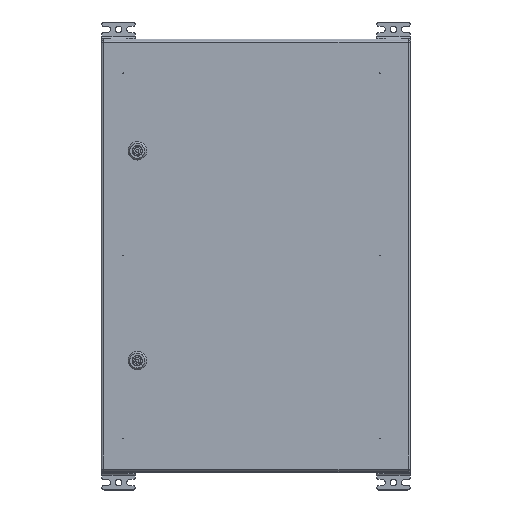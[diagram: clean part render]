
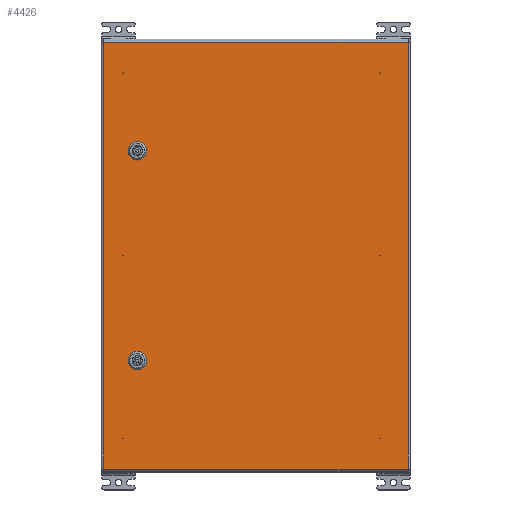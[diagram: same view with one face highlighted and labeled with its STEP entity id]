
A CAD part, top view. The second image highlights one B-rep face of the part: STEP entity #4426.
In plain terms, the highlighted planar face has unit normal (0, 0, 1).
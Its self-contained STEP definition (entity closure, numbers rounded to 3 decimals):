
#4426=ADVANCED_FACE('',(#11872,#11874,#11876),#11878,.T.);
#11872=FACE_BOUND('',#11873,.T.);
#11873=EDGE_LOOP('',(#33392,#33393,#33394,#33395));
#11874=FACE_BOUND('',#11875,.T.);
#11875=EDGE_LOOP('',(#33396,#33397,#33398,#33399,#33400,#33401,#33402,#33403));
#11876=FACE_BOUND('',#11877,.T.);
#11877=EDGE_LOOP('',(#33404,#33405,#33406,#33407,#33408,#33409,#33410,#33411));
#11878=PLANE('',#11879);
#11879=AXIS2_PLACEMENT_3D('',#11880,#11881,#11882);
#11880=CARTESIAN_POINT('',(0.,0.,1.5));
#11881=DIRECTION('',(0.,0.,1.));
#11882=DIRECTION('',(1.,0.,0.));
#33392=ORIENTED_EDGE('',*,*,#37104,.T.);
#33393=ORIENTED_EDGE('',*,*,#37105,.T.);
#33394=ORIENTED_EDGE('',*,*,#37027,.T.);
#33395=ORIENTED_EDGE('',*,*,#37106,.T.);
#33396=ORIENTED_EDGE('',*,*,#37107,.T.);
#33397=ORIENTED_EDGE('',*,*,#37108,.T.);
#33398=ORIENTED_EDGE('',*,*,#37109,.T.);
#33399=ORIENTED_EDGE('',*,*,#37110,.T.);
#33400=ORIENTED_EDGE('',*,*,#37111,.T.);
#33401=ORIENTED_EDGE('',*,*,#37112,.T.);
#33402=ORIENTED_EDGE('',*,*,#37113,.T.);
#33403=ORIENTED_EDGE('',*,*,#37114,.T.);
#33404=ORIENTED_EDGE('',*,*,#37115,.T.);
#33405=ORIENTED_EDGE('',*,*,#37116,.T.);
#33406=ORIENTED_EDGE('',*,*,#37117,.T.);
#33407=ORIENTED_EDGE('',*,*,#37118,.T.);
#33408=ORIENTED_EDGE('',*,*,#37119,.T.);
#33409=ORIENTED_EDGE('',*,*,#37120,.T.);
#33410=ORIENTED_EDGE('',*,*,#37121,.T.);
#33411=ORIENTED_EDGE('',*,*,#37122,.T.);
#37027=EDGE_CURVE('',#40114,#40112,#40115,.T.);
#37104=EDGE_CURVE('',#40251,#40252,#40253,.T.);
#37105=EDGE_CURVE('',#40252,#40114,#40254,.T.);
#37106=EDGE_CURVE('',#40112,#40251,#40255,.T.);
#37107=EDGE_CURVE('',#40256,#40257,#40258,.T.);
#37108=EDGE_CURVE('',#40257,#40259,#40260,.F.);
#37109=EDGE_CURVE('',#40259,#40261,#40262,.T.);
#37110=EDGE_CURVE('',#40261,#40263,#40264,.F.);
#37111=EDGE_CURVE('',#40263,#40265,#40266,.T.);
#37112=EDGE_CURVE('',#40265,#40267,#40268,.F.);
#37113=EDGE_CURVE('',#40267,#40269,#40270,.T.);
#37114=EDGE_CURVE('',#40269,#40256,#40271,.F.);
#37115=EDGE_CURVE('',#40272,#40273,#40274,.T.);
#37116=EDGE_CURVE('',#40273,#40275,#40276,.F.);
#37117=EDGE_CURVE('',#40275,#40277,#40278,.T.);
#37118=EDGE_CURVE('',#40277,#40279,#40280,.F.);
#37119=EDGE_CURVE('',#40279,#40281,#40282,.T.);
#37120=EDGE_CURVE('',#40281,#40283,#40284,.F.);
#37121=EDGE_CURVE('',#40283,#40285,#40286,.T.);
#37122=EDGE_CURVE('',#40285,#40272,#40287,.F.);
#40112=VERTEX_POINT('',#48122);
#40114=VERTEX_POINT('',#48127);
#40115=LINE('',#48128,#48129);
#40251=VERTEX_POINT('',#48443);
#40252=VERTEX_POINT('',#48444);
#40253=LINE('',#48445,#48446);
#40254=LINE('',#48448,#48449);
#40255=LINE('',#48451,#48452);
#40256=VERTEX_POINT('',#48454);
#40257=VERTEX_POINT('',#48455);
#40258=CIRCLE('',#48456,11.25);
#40259=VERTEX_POINT('',#48460);
#40260=LINE('',#48461,#48462);
#40261=VERTEX_POINT('',#48464);
#40262=CIRCLE('',#48465,11.25);
#40263=VERTEX_POINT('',#48469);
#40264=LINE('',#48470,#48471);
#40265=VERTEX_POINT('',#48473);
#40266=CIRCLE('',#48474,11.25);
#40267=VERTEX_POINT('',#48478);
#40268=LINE('',#48479,#48480);
#40269=VERTEX_POINT('',#48482);
#40270=CIRCLE('',#48483,11.25);
#40271=LINE('',#48487,#48488);
#40272=VERTEX_POINT('',#48490);
#40273=VERTEX_POINT('',#48491);
#40274=CIRCLE('',#48492,11.25);
#40275=VERTEX_POINT('',#48496);
#40276=LINE('',#48497,#48498);
#40277=VERTEX_POINT('',#48500);
#40278=CIRCLE('',#48501,11.25);
#40279=VERTEX_POINT('',#48505);
#40280=LINE('',#48506,#48507);
#40281=VERTEX_POINT('',#48509);
#40282=CIRCLE('',#48510,11.25);
#40283=VERTEX_POINT('',#48514);
#40284=LINE('',#48515,#48516);
#40285=VERTEX_POINT('',#48518);
#40286=CIRCLE('',#48519,11.25);
#40287=LINE('',#48523,#48524);
#48122=CARTESIAN_POINT('',(0.,0.,1.5));
#48127=CARTESIAN_POINT('',(0.,-492.,1.5));
#48128=CARTESIAN_POINT('',(0.,-492.,1.5));
#48129=VECTOR('',#48130,1.);
#48130=DIRECTION('',(0.,1.,0.));
#48443=CARTESIAN_POINT('',(-689.,0.,1.5));
#48444=CARTESIAN_POINT('',(-689.,-492.,1.5));
#48445=CARTESIAN_POINT('',(-689.,0.,1.5));
#48446=VECTOR('',#48447,1.);
#48447=DIRECTION('',(0.,-1.,0.));
#48448=CARTESIAN_POINT('',(-689.,-492.,1.5));
#48449=VECTOR('',#48450,1.);
#48450=DIRECTION('',(1.,0.,0.));
#48451=CARTESIAN_POINT('',(0.,0.,1.5));
#48452=VECTOR('',#48453,1.);
#48453=DIRECTION('',(-1.,0.,0.));
#48454=CARTESIAN_POINT('',(-185.1,-49.545,1.5));
#48455=CARTESIAN_POINT('',(-179.955,-44.4,1.5));
#48456=AXIS2_PLACEMENT_3D('',#48457,#48458,#48459);
#48457=CARTESIAN_POINT('',(-175.,-54.5,1.5));
#48458=DIRECTION('',(0.,0.,-1.));
#48459=DIRECTION('',(-0.898,0.44,0.));
#48460=CARTESIAN_POINT('',(-170.045,-44.4,1.5));
#48461=CARTESIAN_POINT('',(-170.045,-44.4,1.5));
#48462=VECTOR('',#48463,1.);
#48463=DIRECTION('',(-1.,0.,0.));
#48464=CARTESIAN_POINT('',(-164.9,-49.545,1.5));
#48465=AXIS2_PLACEMENT_3D('',#48466,#48467,#48468);
#48466=CARTESIAN_POINT('',(-175.,-54.5,1.5));
#48467=DIRECTION('',(0.,0.,-1.));
#48468=DIRECTION('',(0.44,0.898,0.));
#48469=CARTESIAN_POINT('',(-164.9,-59.455,1.5));
#48470=CARTESIAN_POINT('',(-164.9,-59.455,1.5));
#48471=VECTOR('',#48472,1.);
#48472=DIRECTION('',(0.,1.,0.));
#48473=CARTESIAN_POINT('',(-170.045,-64.6,1.5));
#48474=AXIS2_PLACEMENT_3D('',#48475,#48476,#48477);
#48475=CARTESIAN_POINT('',(-175.,-54.5,1.5));
#48476=DIRECTION('',(0.,0.,-1.));
#48477=DIRECTION('',(0.898,-0.44,0.));
#48478=CARTESIAN_POINT('',(-179.955,-64.6,1.5));
#48479=CARTESIAN_POINT('',(-179.955,-64.6,1.5));
#48480=VECTOR('',#48481,1.);
#48481=DIRECTION('',(1.,0.,0.));
#48482=CARTESIAN_POINT('',(-185.1,-59.455,1.5));
#48483=AXIS2_PLACEMENT_3D('',#48484,#48485,#48486);
#48484=CARTESIAN_POINT('',(-175.,-54.5,1.5));
#48485=DIRECTION('',(0.,0.,-1.));
#48486=DIRECTION('',(-0.44,-0.898,0.));
#48487=CARTESIAN_POINT('',(-185.1,-49.545,1.5));
#48488=VECTOR('',#48489,1.);
#48489=DIRECTION('',(0.,-1.,0.));
#48490=CARTESIAN_POINT('',(-524.1,-49.545,1.5));
#48491=CARTESIAN_POINT('',(-518.955,-44.4,1.5));
#48492=AXIS2_PLACEMENT_3D('',#48493,#48494,#48495);
#48493=CARTESIAN_POINT('',(-514.,-54.5,1.5));
#48494=DIRECTION('',(0.,0.,-1.));
#48495=DIRECTION('',(-0.898,0.44,0.));
#48496=CARTESIAN_POINT('',(-509.045,-44.4,1.5));
#48497=CARTESIAN_POINT('',(-509.045,-44.4,1.5));
#48498=VECTOR('',#48499,1.);
#48499=DIRECTION('',(-1.,0.,0.));
#48500=CARTESIAN_POINT('',(-503.9,-49.545,1.5));
#48501=AXIS2_PLACEMENT_3D('',#48502,#48503,#48504);
#48502=CARTESIAN_POINT('',(-514.,-54.5,1.5));
#48503=DIRECTION('',(0.,0.,-1.));
#48504=DIRECTION('',(0.44,0.898,0.));
#48505=CARTESIAN_POINT('',(-503.9,-59.455,1.5));
#48506=CARTESIAN_POINT('',(-503.9,-59.455,1.5));
#48507=VECTOR('',#48508,1.);
#48508=DIRECTION('',(0.,1.,0.));
#48509=CARTESIAN_POINT('',(-509.045,-64.6,1.5));
#48510=AXIS2_PLACEMENT_3D('',#48511,#48512,#48513);
#48511=CARTESIAN_POINT('',(-514.,-54.5,1.5));
#48512=DIRECTION('',(0.,0.,-1.));
#48513=DIRECTION('',(0.898,-0.44,0.));
#48514=CARTESIAN_POINT('',(-518.955,-64.6,1.5));
#48515=CARTESIAN_POINT('',(-518.955,-64.6,1.5));
#48516=VECTOR('',#48517,1.);
#48517=DIRECTION('',(1.,0.,0.));
#48518=CARTESIAN_POINT('',(-524.1,-59.455,1.5));
#48519=AXIS2_PLACEMENT_3D('',#48520,#48521,#48522);
#48520=CARTESIAN_POINT('',(-514.,-54.5,1.5));
#48521=DIRECTION('',(0.,0.,-1.));
#48522=DIRECTION('',(-0.44,-0.898,0.));
#48523=CARTESIAN_POINT('',(-524.1,-49.545,1.5));
#48524=VECTOR('',#48525,1.);
#48525=DIRECTION('',(0.,-1.,0.));
